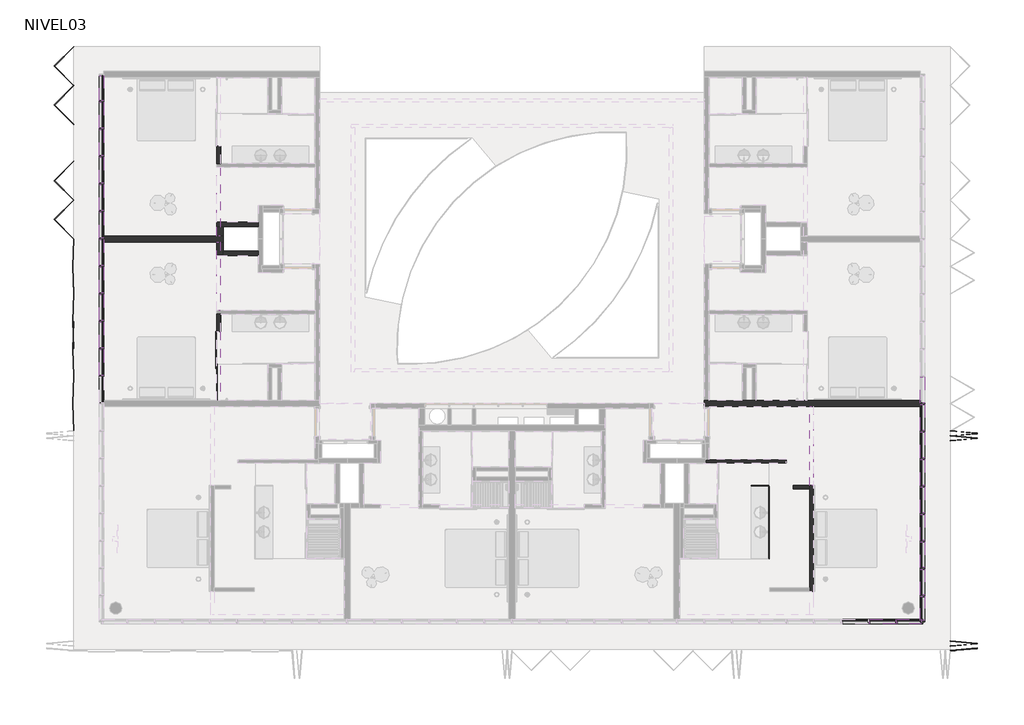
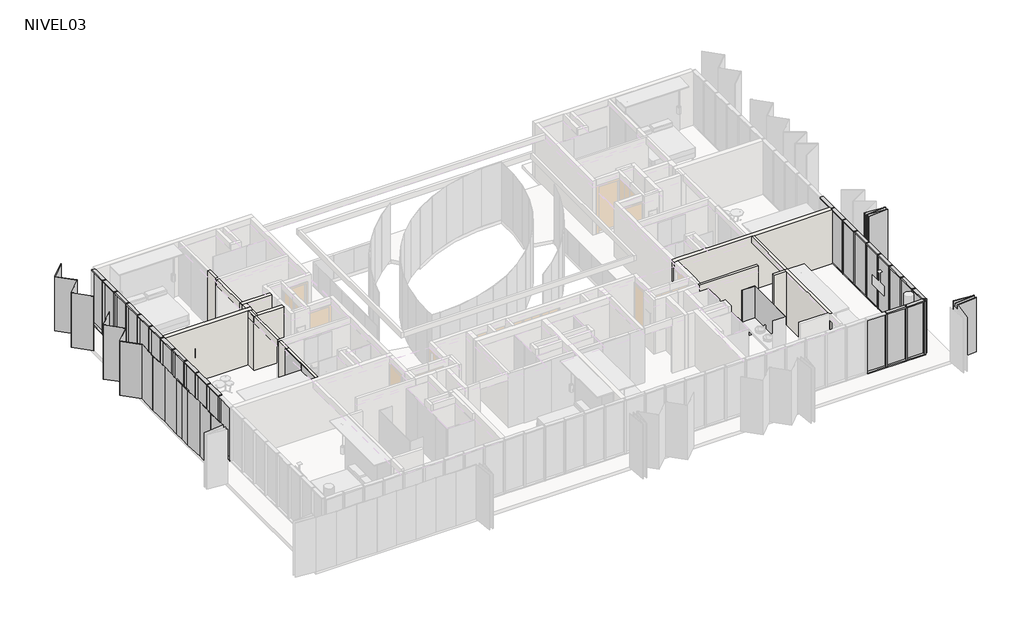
# One storey, part 4 of 8: 68 members, 30 plates, 18 walls.
"""IFC4 building model written with IfcOpenShell, lengths in millimetres."""

from ifc_helpers import new_model, si_unit, frame, origin, place, context, project, spatial, polyline, outline, extrude, faceted_brep, transform, mapped, element, save
from components import rectangular_mullion_50_x_150mm_8dc60d6a, rectangular_mullion_50_x_150mm_324a6438, rectangular_mullion_50_x_150mm_d09437e2, rectangular_mullion_50_x_150mm_5dc04e1f, rectangular_mullion_50_x_150mm_33c2bde1, rectangular_mullion_50_x_150mm_da4cfd0d, folding_hd_folding_hd_45_306ecaba, folding_hd_folding_hd_85_a0ccf00b, plate_14ea687d, panel_corredera_cr_panel_corredera_0b5135b5, system_panel_cr_shower_91adf229, system_panel_cr_shower_8ff19449, system_panel_cr_shower_d0c7b907, system_panel_glazed_8b30d0e9, system_panel_glazed_8b1c2311, system_panel_glazed_24c908d7, system_panel_glazed_6ccc6dc1

model = new_model("IFC4")

# Units and contexts
model_context = context("Model", 3, world=origin())
ifc_project = project(units=[si_unit("LENGTHUNIT", "METRE", prefix="MILLI")], contexts=[model_context])

# Site, building, storey
site = spatial("IfcSite", under=ifc_project)
building = spatial("IfcBuilding", under=site)
storey = spatial("IfcBuildingStorey", under=building, Name="NIVEL03", Elevation=5220.0)

# Members
placement = place(None, origin())
rectangular_mullion_50_x_150mm_shape = rectangular_mullion_50_x_150mm_8dc60d6a(model_context)
element("IfcMember", 1, ObjectType="Rectangular Mullion : 50 x 150mm", at=placement, inside=storey, context=model_context, shape_type="MappedRepresentation", body=[
    mapped(rectangular_mullion_50_x_150mm_shape, transform((-20633.5934748, 9658.9139237, 7770.0), x_axis=(0.0, 0.0, 1.0), y_axis=(-1.0, 0.0, 0.0), z_axis=(0.0, -1.0, 0.0))),
])
rectangular_mullion_50_x_150mm_2_shape = rectangular_mullion_50_x_150mm_324a6438(model_context)
element("IfcMember", 2, ObjectType="Rectangular Mullion : 50 x 150mm", at=placement, inside=storey, context=model_context, shape_type="MappedRepresentation", body=[
    mapped(rectangular_mullion_50_x_150mm_2_shape, transform((-20633.5934748, 8758.9139237, 7770.0), x_axis=(0.0, 0.0, 1.0), y_axis=(-1.0, 0.0, 0.0), z_axis=(0.0, -1.0, 0.0))),
])
element("IfcMember", 3, ObjectType="Rectangular Mullion : 50 x 150mm", at=placement, inside=storey, context=model_context, shape_type="MappedRepresentation", body=[
    mapped(rectangular_mullion_50_x_150mm_2_shape, transform((-20633.5934748, 7858.9139237, 7770.0), x_axis=(0.0, 0.0, 1.0), y_axis=(-1.0, 0.0, 0.0), z_axis=(0.0, -1.0, 0.0))),
])
element("IfcMember", 4, ObjectType="Rectangular Mullion : 50 x 150mm", at=placement, inside=storey, context=model_context, shape_type="MappedRepresentation", body=[
    mapped(rectangular_mullion_50_x_150mm_2_shape, transform((-20633.5934748, 6958.9139237, 7770.0), x_axis=(0.0, 0.0, 1.0), y_axis=(-1.0, 0.0, 0.0), z_axis=(0.0, -1.0, 0.0))),
])
element("IfcMember", 5, ObjectType="Rectangular Mullion : 50 x 150mm", at=placement, inside=storey, context=model_context, shape_type="MappedRepresentation", body=[
    mapped(rectangular_mullion_50_x_150mm_2_shape, transform((-20633.5934748, 6058.9139237, 7770.0), x_axis=(0.0, 0.0, 1.0), y_axis=(-1.0, 0.0, 0.0), z_axis=(0.0, -1.0, 0.0))),
])
element("IfcMember", 6, ObjectType="Rectangular Mullion : 50 x 150mm", at=placement, inside=storey, context=model_context, shape_type="MappedRepresentation", body=[
    mapped(rectangular_mullion_50_x_150mm_2_shape, transform((-20633.5934748, 5158.9139237, 7770.0), x_axis=(0.0, 0.0, 1.0), y_axis=(-1.0, 0.0, 0.0), z_axis=(0.0, -1.0, 0.0))),
])
element("IfcMember", 7, ObjectType="Rectangular Mullion : 50 x 150mm", at=placement, inside=storey, context=model_context, shape_type="MappedRepresentation", body=[
    mapped(rectangular_mullion_50_x_150mm_2_shape, transform((-20633.5934748, 4258.9139237, 7770.0), x_axis=(0.0, 0.0, 1.0), y_axis=(-1.0, 0.0, 0.0), z_axis=(0.0, -1.0, 0.0))),
])
element("IfcMember", 8, ObjectType="Rectangular Mullion : 50 x 150mm", at=placement, inside=storey, context=model_context, shape_type="MappedRepresentation", body=[
    mapped(rectangular_mullion_50_x_150mm_2_shape, transform((-20633.5934748, 3358.9139237, 7770.0), x_axis=(0.0, 0.0, 1.0), y_axis=(-1.0, 0.0, 0.0), z_axis=(0.0, -1.0, 0.0))),
])
element("IfcMember", 9, ObjectType="Rectangular Mullion : 50 x 150mm", at=placement, inside=storey, context=model_context, shape_type="MappedRepresentation", body=[
    mapped(rectangular_mullion_50_x_150mm_2_shape, transform((-20633.5934748, 2458.9139237, 7770.0), x_axis=(0.0, 0.0, 1.0), y_axis=(-1.0, 0.0, 0.0), z_axis=(0.0, -1.0, 0.0))),
])
element("IfcMember", 10, ObjectType="Rectangular Mullion : 50 x 150mm", at=placement, inside=storey, context=model_context, shape_type="MappedRepresentation", body=[
    mapped(rectangular_mullion_50_x_150mm_2_shape, transform((-20633.5934748, 1558.9139237, 7770.0), x_axis=(0.0, 0.0, 1.0), y_axis=(-1.0, 0.0, 0.0), z_axis=(0.0, -1.0, 0.0))),
])
element("IfcMember", 11, ObjectType="Rectangular Mullion : 50 x 150mm", at=placement, inside=storey, context=model_context, shape_type="MappedRepresentation", body=[
    mapped(rectangular_mullion_50_x_150mm_2_shape, transform((-20633.5934748, 658.9139237, 7770.0), x_axis=(0.0, 0.0, 1.0), y_axis=(-1.0, 0.0, 0.0), z_axis=(0.0, -1.0, 0.0))),
])
element("IfcMember", 12, ObjectType="Rectangular Mullion : 50 x 150mm", at=placement, inside=storey, context=model_context, shape_type="MappedRepresentation", body=[
    mapped(rectangular_mullion_50_x_150mm_shape, transform((-20633.5934748, 10483.9139241, 5200.0), x_axis=(0.0, 0.0, -1.0), y_axis=(-1.0, 0.0, 0.0), z_axis=(0.0, 1.0, 0.0))),
])
element("IfcMember", 13, ObjectType="Rectangular Mullion : 50 x 150mm", at=placement, inside=storey, context=model_context, shape_type="MappedRepresentation", body=[
    mapped(rectangular_mullion_50_x_150mm_2_shape, transform((-20633.5934748, 9608.9139237, 5200.0), x_axis=(0.0, 0.0, -1.0), y_axis=(-1.0, 0.0, 0.0), z_axis=(0.0, 1.0, 0.0))),
])
element("IfcMember", 14, ObjectType="Rectangular Mullion : 50 x 150mm", at=placement, inside=storey, context=model_context, shape_type="MappedRepresentation", body=[
    mapped(rectangular_mullion_50_x_150mm_2_shape, transform((-20633.5934748, 8708.9139237, 5200.0), x_axis=(0.0, 0.0, -1.0), y_axis=(-1.0, 0.0, 0.0), z_axis=(0.0, 1.0, 0.0))),
])
element("IfcMember", 15, ObjectType="Rectangular Mullion : 50 x 150mm", at=placement, inside=storey, context=model_context, shape_type="MappedRepresentation", body=[
    mapped(rectangular_mullion_50_x_150mm_2_shape, transform((-20633.5934748, 7808.9139237, 5200.0), x_axis=(0.0, 0.0, -1.0), y_axis=(-1.0, 0.0, 0.0), z_axis=(0.0, 1.0, 0.0))),
])
element("IfcMember", 16, ObjectType="Rectangular Mullion : 50 x 150mm", at=placement, inside=storey, context=model_context, shape_type="MappedRepresentation", body=[
    mapped(rectangular_mullion_50_x_150mm_2_shape, transform((-20633.5934748, 6908.9139237, 5200.0), x_axis=(0.0, 0.0, -1.0), y_axis=(-1.0, 0.0, 0.0), z_axis=(0.0, 1.0, 0.0))),
])
element("IfcMember", 17, ObjectType="Rectangular Mullion : 50 x 150mm", at=placement, inside=storey, context=model_context, shape_type="MappedRepresentation", body=[
    mapped(rectangular_mullion_50_x_150mm_2_shape, transform((-20633.5934748, 6008.9139237, 5200.0), x_axis=(0.0, 0.0, -1.0), y_axis=(-1.0, 0.0, 0.0), z_axis=(0.0, 1.0, 0.0))),
])
element("IfcMember", 18, ObjectType="Rectangular Mullion : 50 x 150mm", at=placement, inside=storey, context=model_context, shape_type="MappedRepresentation", body=[
    mapped(rectangular_mullion_50_x_150mm_2_shape, transform((-20633.5934748, 5108.9139237, 5200.0), x_axis=(0.0, 0.0, -1.0), y_axis=(-1.0, 0.0, 0.0), z_axis=(0.0, 1.0, 0.0))),
])
element("IfcMember", 19, ObjectType="Rectangular Mullion : 50 x 150mm", at=placement, inside=storey, context=model_context, shape_type="MappedRepresentation", body=[
    mapped(rectangular_mullion_50_x_150mm_2_shape, transform((-20633.5934748, 4208.9139237, 5200.0), x_axis=(0.0, 0.0, -1.0), y_axis=(-1.0, 0.0, 0.0), z_axis=(0.0, 1.0, 0.0))),
])
element("IfcMember", 20, ObjectType="Rectangular Mullion : 50 x 150mm", at=placement, inside=storey, context=model_context, shape_type="MappedRepresentation", body=[
    mapped(rectangular_mullion_50_x_150mm_2_shape, transform((-20633.5934748, 3308.9139237, 5200.0), x_axis=(0.0, 0.0, -1.0), y_axis=(-1.0, 0.0, 0.0), z_axis=(0.0, 1.0, 0.0))),
])
element("IfcMember", 21, ObjectType="Rectangular Mullion : 50 x 150mm", at=placement, inside=storey, context=model_context, shape_type="MappedRepresentation", body=[
    mapped(rectangular_mullion_50_x_150mm_2_shape, transform((-20633.5934748, 2408.9139237, 5200.0), x_axis=(0.0, 0.0, -1.0), y_axis=(-1.0, 0.0, 0.0), z_axis=(0.0, 1.0, 0.0))),
])
element("IfcMember", 22, ObjectType="Rectangular Mullion : 50 x 150mm", at=placement, inside=storey, context=model_context, shape_type="MappedRepresentation", body=[
    mapped(rectangular_mullion_50_x_150mm_2_shape, transform((-20633.5934748, 1508.9139237, 5200.0), x_axis=(0.0, 0.0, -1.0), y_axis=(-1.0, 0.0, 0.0), z_axis=(0.0, 1.0, 0.0))),
])
element("IfcMember", 23, ObjectType="Rectangular Mullion : 50 x 150mm", at=placement, inside=storey, context=model_context, shape_type="MappedRepresentation", body=[
    mapped(rectangular_mullion_50_x_150mm_2_shape, transform((-20633.5934748, 608.9139237, 5200.0), x_axis=(0.0, 0.0, -1.0), y_axis=(-1.0, 0.0, 0.0), z_axis=(0.0, 1.0, 0.0))),
])
element("IfcMember", 24, ObjectType="Rectangular Mullion : 50 x 150mm", at=placement, inside=storey, context=model_context, shape_type="MappedRepresentation", body=[
    mapped(rectangular_mullion_50_x_150mm_2_shape, transform((4541.4065252, -7416.0860759, 7770.0), x_axis=(0.0, 0.0, 1.0), y_axis=(0.0, 1.0, 0.0), z_axis=(-1.0, 0.0, 0.0))),
])
element("IfcMember", 25, ObjectType="Rectangular Mullion : 50 x 150mm", at=placement, inside=storey, context=model_context, shape_type="MappedRepresentation", body=[
    mapped(rectangular_mullion_50_x_150mm_2_shape, transform((4491.4065252, -7416.0860759, 5200.0), x_axis=(0.0, 0.0, -1.0), y_axis=(0.0, 1.0, 0.0), z_axis=(1.0, 0.0, 0.0))),
])
element("IfcMember", 26, ObjectType="Rectangular Mullion : 50 x 150mm", at=placement, inside=storey, context=model_context, shape_type="MappedRepresentation", body=[
    mapped(rectangular_mullion_50_x_150mm_2_shape, transform((5391.4065252, -7416.0860759, 5200.0), x_axis=(0.0, 0.0, -1.0), y_axis=(0.0, 1.0, 0.0), z_axis=(1.0, 0.0, 0.0))),
])
rectangular_mullion_50_x_150mm_3_shape = rectangular_mullion_50_x_150mm_d09437e2(model_context)
element("IfcMember", 27, ObjectType="Rectangular Mullion : 50 x 150mm", at=placement, inside=storey, context=model_context, shape_type="MappedRepresentation", body=[
    mapped(rectangular_mullion_50_x_150mm_3_shape, transform((6266.4065252, -7366.0860759, 7770.0), x_axis=(0.0, 0.0, 1.0), y_axis=(-1.0, 0.0, 0.0), z_axis=(0.0, -1.0, 0.0))),
])
element("IfcMember", 28, ObjectType="Rectangular Mullion : 50 x 150mm", at=placement, inside=storey, context=model_context, shape_type="MappedRepresentation", body=[
    mapped(rectangular_mullion_50_x_150mm_2_shape, transform((6266.4065252, -241.0860763, 7770.0), x_axis=(0.0, 0.0, 1.0), y_axis=(-1.0, 0.0, 0.0), z_axis=(0.0, -1.0, 0.0))),
])
element("IfcMember", 29, ObjectType="Rectangular Mullion : 50 x 150mm", at=placement, inside=storey, context=model_context, shape_type="MappedRepresentation", body=[
    mapped(rectangular_mullion_50_x_150mm_2_shape, transform((6266.4065252, -1141.0860763, 7770.0), x_axis=(0.0, 0.0, 1.0), y_axis=(-1.0, 0.0, 0.0), z_axis=(0.0, -1.0, 0.0))),
])
element("IfcMember", 30, ObjectType="Rectangular Mullion : 50 x 150mm", at=placement, inside=storey, context=model_context, shape_type="MappedRepresentation", body=[
    mapped(rectangular_mullion_50_x_150mm_2_shape, transform((6266.4065252, -2041.0860763, 7770.0), x_axis=(0.0, 0.0, 1.0), y_axis=(-1.0, 0.0, 0.0), z_axis=(0.0, -1.0, 0.0))),
])
element("IfcMember", 31, ObjectType="Rectangular Mullion : 50 x 150mm", at=placement, inside=storey, context=model_context, shape_type="MappedRepresentation", body=[
    mapped(rectangular_mullion_50_x_150mm_2_shape, transform((6266.4065252, -2941.0860763, 7770.0), x_axis=(0.0, 0.0, 1.0), y_axis=(-1.0, 0.0, 0.0), z_axis=(0.0, -1.0, 0.0))),
])
element("IfcMember", 32, ObjectType="Rectangular Mullion : 50 x 150mm", at=placement, inside=storey, context=model_context, shape_type="MappedRepresentation", body=[
    mapped(rectangular_mullion_50_x_150mm_2_shape, transform((6266.4065252, -3841.0860763, 7770.0), x_axis=(0.0, 0.0, 1.0), y_axis=(-1.0, 0.0, 0.0), z_axis=(0.0, -1.0, 0.0))),
])
element("IfcMember", 33, ObjectType="Rectangular Mullion : 50 x 150mm", at=placement, inside=storey, context=model_context, shape_type="MappedRepresentation", body=[
    mapped(rectangular_mullion_50_x_150mm_2_shape, transform((6266.4065252, -4741.0860763, 7770.0), x_axis=(0.0, 0.0, 1.0), y_axis=(-1.0, 0.0, 0.0), z_axis=(0.0, -1.0, 0.0))),
])
element("IfcMember", 34, ObjectType="Rectangular Mullion : 50 x 150mm", at=placement, inside=storey, context=model_context, shape_type="MappedRepresentation", body=[
    mapped(rectangular_mullion_50_x_150mm_2_shape, transform((6266.4065252, -5641.0860763, 7770.0), x_axis=(0.0, 0.0, 1.0), y_axis=(-1.0, 0.0, 0.0), z_axis=(0.0, -1.0, 0.0))),
])
element("IfcMember", 35, ObjectType="Rectangular Mullion : 50 x 150mm", at=placement, inside=storey, context=model_context, shape_type="MappedRepresentation", body=[
    mapped(rectangular_mullion_50_x_150mm_2_shape, transform((6266.4065252, -6541.0860763, 7770.0), x_axis=(0.0, 0.0, 1.0), y_axis=(-1.0, 0.0, 0.0), z_axis=(0.0, -1.0, 0.0))),
])
element("IfcMember", 36, ObjectType="Rectangular Mullion : 50 x 150mm", at=placement, inside=storey, context=model_context, shape_type="MappedRepresentation", body=[
    mapped(rectangular_mullion_50_x_150mm_2_shape, transform((6266.4065252, -291.0860763, 5200.0), x_axis=(0.0, 0.0, -1.0), y_axis=(-1.0, 0.0, 0.0), z_axis=(0.0, 1.0, 0.0))),
])
element("IfcMember", 37, ObjectType="Rectangular Mullion : 50 x 150mm", at=placement, inside=storey, context=model_context, shape_type="MappedRepresentation", body=[
    mapped(rectangular_mullion_50_x_150mm_2_shape, transform((6266.4065252, -1191.0860763, 5200.0), x_axis=(0.0, 0.0, -1.0), y_axis=(-1.0, 0.0, 0.0), z_axis=(0.0, 1.0, 0.0))),
])
element("IfcMember", 38, ObjectType="Rectangular Mullion : 50 x 150mm", at=placement, inside=storey, context=model_context, shape_type="MappedRepresentation", body=[
    mapped(rectangular_mullion_50_x_150mm_2_shape, transform((6266.4065252, -2091.0860763, 5200.0), x_axis=(0.0, 0.0, -1.0), y_axis=(-1.0, 0.0, 0.0), z_axis=(0.0, 1.0, 0.0))),
])
element("IfcMember", 39, ObjectType="Rectangular Mullion : 50 x 150mm", at=placement, inside=storey, context=model_context, shape_type="MappedRepresentation", body=[
    mapped(rectangular_mullion_50_x_150mm_2_shape, transform((6266.4065252, -2991.0860763, 5200.0), x_axis=(0.0, 0.0, -1.0), y_axis=(-1.0, 0.0, 0.0), z_axis=(0.0, 1.0, 0.0))),
])
element("IfcMember", 40, ObjectType="Rectangular Mullion : 50 x 150mm", at=placement, inside=storey, context=model_context, shape_type="MappedRepresentation", body=[
    mapped(rectangular_mullion_50_x_150mm_2_shape, transform((6266.4065252, -3891.0860763, 5200.0), x_axis=(0.0, 0.0, -1.0), y_axis=(-1.0, 0.0, 0.0), z_axis=(0.0, 1.0, 0.0))),
])
element("IfcMember", 41, ObjectType="Rectangular Mullion : 50 x 150mm", at=placement, inside=storey, context=model_context, shape_type="MappedRepresentation", body=[
    mapped(rectangular_mullion_50_x_150mm_2_shape, transform((6266.4065252, -4791.0860763, 5200.0), x_axis=(0.0, 0.0, -1.0), y_axis=(-1.0, 0.0, 0.0), z_axis=(0.0, 1.0, 0.0))),
])
element("IfcMember", 42, ObjectType="Rectangular Mullion : 50 x 150mm", at=placement, inside=storey, context=model_context, shape_type="MappedRepresentation", body=[
    mapped(rectangular_mullion_50_x_150mm_2_shape, transform((6266.4065252, -5691.0860763, 5200.0), x_axis=(0.0, 0.0, -1.0), y_axis=(-1.0, 0.0, 0.0), z_axis=(0.0, 1.0, 0.0))),
])
element("IfcMember", 43, ObjectType="Rectangular Mullion : 50 x 150mm", at=placement, inside=storey, context=model_context, shape_type="MappedRepresentation", body=[
    mapped(rectangular_mullion_50_x_150mm_3_shape, transform((6266.4065252, -6591.0860763, 5200.0), x_axis=(0.0, 0.0, -1.0), y_axis=(-1.0, 0.0, 0.0), z_axis=(0.0, 1.0, 0.0))),
])
rectangular_mullion_50_x_150mm_4_shape = rectangular_mullion_50_x_150mm_5dc04e1f(model_context)
element("IfcMember", 44, ObjectType="Rectangular Mullion : 50 x 150mm", at=placement, inside=storey, context=model_context, shape_type="MappedRepresentation", body=[
    mapped(rectangular_mullion_50_x_150mm_4_shape, transform((5441.4065252, -7416.0860759, 7770.0), x_axis=(0.0, 0.0, 1.0), y_axis=(0.0, 1.0, 0.0), z_axis=(-1.0, 0.0, 0.0))),
])
element("IfcMember", 45, ObjectType="Rectangular Mullion : 50 x 150mm", at=placement, inside=storey, context=model_context, shape_type="MappedRepresentation", body=[
    mapped(rectangular_mullion_50_x_150mm_4_shape, transform((6216.4065252, -7416.0860759, 5200.0), x_axis=(0.0, 0.0, -1.0), y_axis=(0.0, 1.0, 0.0), z_axis=(1.0, 0.0, 0.0))),
])
rectangular_mullion_50_x_150mm_5_shape = rectangular_mullion_50_x_150mm_33c2bde1(model_context)
element("IfcMember", 46, ObjectType="Rectangular Mullion : 50 x 150mm", at=placement, inside=storey, context=model_context, shape_type="MappedRepresentation", body=[
    mapped(rectangular_mullion_50_x_150mm_5_shape, transform((-20633.5934748, 9633.9139237, 5200.0), x_axis=(0.0, -1.0, 0.0), y_axis=(-1.0, 0.0, 0.0), z_axis=(0.0, 0.0, -1.0))),
])
element("IfcMember", 47, ObjectType="Rectangular Mullion : 50 x 150mm", at=placement, inside=storey, context=model_context, shape_type="MappedRepresentation", body=[
    mapped(rectangular_mullion_50_x_150mm_5_shape, transform((-20633.5934748, 8733.9139237, 5200.0), x_axis=(0.0, -1.0, 0.0), y_axis=(-1.0, 0.0, 0.0), z_axis=(0.0, 0.0, -1.0))),
])
element("IfcMember", 48, ObjectType="Rectangular Mullion : 50 x 150mm", at=placement, inside=storey, context=model_context, shape_type="MappedRepresentation", body=[
    mapped(rectangular_mullion_50_x_150mm_5_shape, transform((-20633.5934748, 7833.9139237, 5200.0), x_axis=(0.0, -1.0, 0.0), y_axis=(-1.0, 0.0, 0.0), z_axis=(0.0, 0.0, -1.0))),
])
element("IfcMember", 49, ObjectType="Rectangular Mullion : 50 x 150mm", at=placement, inside=storey, context=model_context, shape_type="MappedRepresentation", body=[
    mapped(rectangular_mullion_50_x_150mm_5_shape, transform((-20633.5934748, 6933.9139237, 5200.0), x_axis=(0.0, -1.0, 0.0), y_axis=(-1.0, 0.0, 0.0), z_axis=(0.0, 0.0, -1.0))),
])
element("IfcMember", 50, ObjectType="Rectangular Mullion : 50 x 150mm", at=placement, inside=storey, context=model_context, shape_type="MappedRepresentation", body=[
    mapped(rectangular_mullion_50_x_150mm_5_shape, transform((-20633.5934748, 6033.9139237, 5200.0), x_axis=(0.0, -1.0, 0.0), y_axis=(-1.0, 0.0, 0.0), z_axis=(0.0, 0.0, -1.0))),
])
element("IfcMember", 51, ObjectType="Rectangular Mullion : 50 x 150mm", at=placement, inside=storey, context=model_context, shape_type="MappedRepresentation", body=[
    mapped(rectangular_mullion_50_x_150mm_5_shape, transform((-20633.5934748, 5133.9139237, 5200.0), x_axis=(0.0, -1.0, 0.0), y_axis=(-1.0, 0.0, 0.0), z_axis=(0.0, 0.0, -1.0))),
])
element("IfcMember", 52, ObjectType="Rectangular Mullion : 50 x 150mm", at=placement, inside=storey, context=model_context, shape_type="MappedRepresentation", body=[
    mapped(rectangular_mullion_50_x_150mm_5_shape, transform((-20633.5934748, 4233.9139237, 5200.0), x_axis=(0.0, -1.0, 0.0), y_axis=(-1.0, 0.0, 0.0), z_axis=(0.0, 0.0, -1.0))),
])
element("IfcMember", 53, ObjectType="Rectangular Mullion : 50 x 150mm", at=placement, inside=storey, context=model_context, shape_type="MappedRepresentation", body=[
    mapped(rectangular_mullion_50_x_150mm_5_shape, transform((-20633.5934748, 3333.9139237, 5200.0), x_axis=(0.0, -1.0, 0.0), y_axis=(-1.0, 0.0, 0.0), z_axis=(0.0, 0.0, -1.0))),
])
element("IfcMember", 54, ObjectType="Rectangular Mullion : 50 x 150mm", at=placement, inside=storey, context=model_context, shape_type="MappedRepresentation", body=[
    mapped(rectangular_mullion_50_x_150mm_5_shape, transform((-20633.5934748, 2433.9139237, 5200.0), x_axis=(0.0, -1.0, 0.0), y_axis=(-1.0, 0.0, 0.0), z_axis=(0.0, 0.0, -1.0))),
])
element("IfcMember", 55, ObjectType="Rectangular Mullion : 50 x 150mm", at=placement, inside=storey, context=model_context, shape_type="MappedRepresentation", body=[
    mapped(rectangular_mullion_50_x_150mm_5_shape, transform((-20633.5934748, 1533.9139237, 5200.0), x_axis=(0.0, -1.0, 0.0), y_axis=(-1.0, 0.0, 0.0), z_axis=(0.0, 0.0, -1.0))),
])
element("IfcMember", 56, ObjectType="Rectangular Mullion : 50 x 150mm", at=placement, inside=storey, context=model_context, shape_type="MappedRepresentation", body=[
    mapped(rectangular_mullion_50_x_150mm_5_shape, transform((-20633.5934748, 633.9139237, 5200.0), x_axis=(0.0, -1.0, 0.0), y_axis=(-1.0, 0.0, 0.0), z_axis=(0.0, 0.0, -1.0))),
])
element("IfcMember", 57, ObjectType="Rectangular Mullion : 50 x 150mm", at=placement, inside=storey, context=model_context, shape_type="MappedRepresentation", body=[
    mapped(rectangular_mullion_50_x_150mm_5_shape, transform((4516.4065252, -7416.0860759, 5200.0), x_axis=(-1.0, 0.0, 0.0), y_axis=(0.0, 1.0, 0.0), z_axis=(0.0, 0.0, -1.0))),
])
element("IfcMember", 58, ObjectType="Rectangular Mullion : 50 x 150mm", at=placement, inside=storey, context=model_context, shape_type="MappedRepresentation", body=[
    mapped(rectangular_mullion_50_x_150mm_5_shape, transform((5416.4065252, -7416.0860759, 5200.0), x_axis=(-1.0, 0.0, 0.0), y_axis=(0.0, 1.0, 0.0), z_axis=(0.0, 0.0, -1.0))),
])
rectangular_mullion_50_x_150mm_6_shape = rectangular_mullion_50_x_150mm_da4cfd0d(model_context)
element("IfcMember", 59, ObjectType="Rectangular Mullion : 50 x 150mm", at=placement, inside=storey, context=model_context, shape_type="MappedRepresentation", body=[
    mapped(rectangular_mullion_50_x_150mm_6_shape, transform((6266.4065252, -7416.0860759, 7770.0), x_axis=(1.0, 0.0, 0.0), y_axis=(0.0, 1.0, 0.0), z_axis=(0.0, 0.0, 1.0))),
])
element("IfcMember", 60, ObjectType="Rectangular Mullion : 50 x 150mm", at=placement, inside=storey, context=model_context, shape_type="MappedRepresentation", body=[
    mapped(rectangular_mullion_50_x_150mm_5_shape, transform((6266.4065252, -266.0860763, 5200.0), x_axis=(0.0, -1.0, 0.0), y_axis=(-1.0, 0.0, 0.0), z_axis=(0.0, 0.0, -1.0))),
])
element("IfcMember", 61, ObjectType="Rectangular Mullion : 50 x 150mm", at=placement, inside=storey, context=model_context, shape_type="MappedRepresentation", body=[
    mapped(rectangular_mullion_50_x_150mm_5_shape, transform((6266.4065252, -1166.0860763, 5200.0), x_axis=(0.0, -1.0, 0.0), y_axis=(-1.0, 0.0, 0.0), z_axis=(0.0, 0.0, -1.0))),
])
element("IfcMember", 62, ObjectType="Rectangular Mullion : 50 x 150mm", at=placement, inside=storey, context=model_context, shape_type="MappedRepresentation", body=[
    mapped(rectangular_mullion_50_x_150mm_5_shape, transform((6266.4065252, -2066.0860763, 5200.0), x_axis=(0.0, -1.0, 0.0), y_axis=(-1.0, 0.0, 0.0), z_axis=(0.0, 0.0, -1.0))),
])
element("IfcMember", 63, ObjectType="Rectangular Mullion : 50 x 150mm", at=placement, inside=storey, context=model_context, shape_type="MappedRepresentation", body=[
    mapped(rectangular_mullion_50_x_150mm_5_shape, transform((6266.4065252, -2966.0860763, 5200.0), x_axis=(0.0, -1.0, 0.0), y_axis=(-1.0, 0.0, 0.0), z_axis=(0.0, 0.0, -1.0))),
])
element("IfcMember", 64, ObjectType="Rectangular Mullion : 50 x 150mm", at=placement, inside=storey, context=model_context, shape_type="MappedRepresentation", body=[
    mapped(rectangular_mullion_50_x_150mm_5_shape, transform((6266.4065252, -3866.0860763, 5200.0), x_axis=(0.0, -1.0, 0.0), y_axis=(-1.0, 0.0, 0.0), z_axis=(0.0, 0.0, -1.0))),
])
element("IfcMember", 65, ObjectType="Rectangular Mullion : 50 x 150mm", at=placement, inside=storey, context=model_context, shape_type="MappedRepresentation", body=[
    mapped(rectangular_mullion_50_x_150mm_5_shape, transform((6266.4065252, -4766.0860763, 5200.0), x_axis=(0.0, -1.0, 0.0), y_axis=(-1.0, 0.0, 0.0), z_axis=(0.0, 0.0, -1.0))),
])
element("IfcMember", 66, ObjectType="Rectangular Mullion : 50 x 150mm", at=placement, inside=storey, context=model_context, shape_type="MappedRepresentation", body=[
    mapped(rectangular_mullion_50_x_150mm_5_shape, transform((6266.4065252, -5666.0860763, 5200.0), x_axis=(0.0, -1.0, 0.0), y_axis=(-1.0, 0.0, 0.0), z_axis=(0.0, 0.0, -1.0))),
])
element("IfcMember", 67, ObjectType="Rectangular Mullion : 50 x 150mm", at=placement, inside=storey, context=model_context, shape_type="MappedRepresentation", body=[
    mapped(rectangular_mullion_50_x_150mm_5_shape, transform((6266.4065252, -6566.0860763, 5200.0), x_axis=(0.0, -1.0, 0.0), y_axis=(-1.0, 0.0, 0.0), z_axis=(0.0, 0.0, -1.0))),
])
element("IfcMember", 68, ObjectType="Rectangular Mullion : 50 x 150mm", at=placement, inside=storey, context=model_context, shape_type="MappedRepresentation", body=[
    mapped(rectangular_mullion_50_x_150mm_6_shape, transform((6266.4065252, -7416.0860759, 5200.0), x_axis=(0.0, -1.0, 0.0), y_axis=(-1.0, 0.0, 0.0), z_axis=(0.0, 0.0, -1.0))),
])

# Plates
folding_hd_folding_hd_45_shape = folding_hd_folding_hd_45_306ecaba(model_context)
element("IfcPlate", 69, ObjectType="FOLDING HD : FOLDING HD 45", at=placement, inside=storey, context=model_context, shape_type="MappedRepresentation", body=[
    mapped(folding_hd_folding_hd_45_shape, transform((-21533.5934748, 8283.9139241, 5200.0), x_axis=(0.0, -1.0, 0.0), y_axis=(1.0, 0.0, 0.0), z_axis=(0.0, 0.0, 1.0))),
])
folding_hd_folding_hd_85_shape = folding_hd_folding_hd_85_a0ccf00b(model_context)
element("IfcPlate", 70, ObjectType="FOLDING HD : FOLDING HD 85", at=placement, inside=storey, context=model_context, shape_type="MappedRepresentation", body=[
    mapped(folding_hd_folding_hd_85_shape, transform((7166.4065252, -4766.0860759, 5200.0), x_axis=(0.0, -1.0, 0.0), y_axis=(1.0, 0.0, 0.0), z_axis=(0.0, 0.0, 1.0))),
])
plate_shape = plate_14ea687d(model_context)
element("IfcPlate", 71, ObjectType="FOLDING HD : FOLDING HD-90_2\"", at=placement, inside=storey, context=model_context, shape_type="MappedRepresentation", body=[
    mapped(plate_shape, transform((-21533.5934748, 1983.9139241, 5200.0), x_axis=(0.0, -1.0, 0.0), y_axis=(1.0, 0.0, 0.0), z_axis=(0.0, 0.0, 1.0))),
])
panel_corredera_cr_panel_corredera_shape = panel_corredera_cr_panel_corredera_0b5135b5(model_context)
element("IfcPlate", 72, ObjectType="PANEL CORREDERA : CR_PANEL CORREDERA", at=placement, inside=storey, context=model_context, shape_type="MappedRepresentation", body=[
    mapped(panel_corredera_cr_panel_corredera_shape, transform((-16848.5934748, 1563.9139241, 5220.0), x_axis=(0.0, -1.0, 0.0), y_axis=(1.0, 0.0, 0.0), z_axis=(0.0, 0.0, 1.0))),
])
system_panel_cr_shower_shape = system_panel_cr_shower_91adf229(model_context)
element("IfcPlate", 73, ObjectType="System Panel : CR-SHOWER", at=placement, inside=storey, context=model_context, shape_type="MappedRepresentation", body=[
    mapped(system_panel_cr_shower_shape, transform((1226.4065252, -4164.8462541, 5220.0), x_axis=(0.0, 1.0, 0.0), y_axis=(-1.0, 0.0, 0.0), z_axis=(0.0, 0.0, 1.0))),
])
system_panel_cr_shower_2_shape = system_panel_cr_shower_8ff19449(model_context)
element("IfcPlate", 74, ObjectType="System Panel : CR-SHOWER", at=placement, inside=storey, context=model_context, shape_type="MappedRepresentation", body=[
    mapped(system_panel_cr_shower_2_shape, transform((936.4065252, -2966.0860763, 5220.0), x_axis=(1.0, 0.0, 0.0), y_axis=(0.0, 1.0, 0.0), z_axis=(0.0, 0.0, 1.0))),
])
system_panel_cr_shower_3_shape = system_panel_cr_shower_d0c7b907(model_context)
element("IfcPlate", 75, ObjectType="System Panel : CR-SHOWER", at=placement, inside=storey, context=model_context, shape_type="MappedRepresentation", body=[
    mapped(system_panel_cr_shower_3_shape, transform((-16848.5934748, 433.9139241, 5220.0), x_axis=(0.0, -1.0, 0.0), y_axis=(1.0, 0.0, 0.0), z_axis=(0.0, 0.0, 1.0))),
])
system_panel_glazed_shape = system_panel_glazed_8b30d0e9(model_context)
element("IfcPlate", 76, ObjectType="System Panel : Glazed", at=placement, inside=storey, context=model_context, shape_type="MappedRepresentation", body=[
    mapped(system_panel_glazed_shape, transform((-20633.5934748, 10071.4139239, 5250.0), x_axis=(0.0, -1.0, 0.0), y_axis=(1.0, 0.0, 0.0), z_axis=(0.0, 0.0, 1.0))),
])
system_panel_glazed_2_shape = system_panel_glazed_8b1c2311(model_context)
element("IfcPlate", 77, ObjectType="System Panel : Glazed", at=placement, inside=storey, context=model_context, shape_type="MappedRepresentation", body=[
    mapped(system_panel_glazed_2_shape, transform((-20633.5934748, 9183.9139237, 5250.0), x_axis=(0.0, -1.0, 0.0), y_axis=(1.0, 0.0, 0.0), z_axis=(0.0, 0.0, 1.0))),
])
element("IfcPlate", 78, ObjectType="System Panel : Glazed", at=placement, inside=storey, context=model_context, shape_type="MappedRepresentation", body=[
    mapped(system_panel_glazed_2_shape, transform((-20633.5934748, 8283.9139237, 5250.0), x_axis=(0.0, -1.0, 0.0), y_axis=(1.0, 0.0, 0.0), z_axis=(0.0, 0.0, 1.0))),
])
element("IfcPlate", 79, ObjectType="System Panel : Glazed", at=placement, inside=storey, context=model_context, shape_type="MappedRepresentation", body=[
    mapped(system_panel_glazed_2_shape, transform((-20633.5934748, 7383.9139237, 5250.0), x_axis=(0.0, -1.0, 0.0), y_axis=(1.0, 0.0, 0.0), z_axis=(0.0, 0.0, 1.0))),
])
element("IfcPlate", 80, ObjectType="System Panel : Glazed", at=placement, inside=storey, context=model_context, shape_type="MappedRepresentation", body=[
    mapped(system_panel_glazed_2_shape, transform((-20633.5934748, 6483.9139237, 5250.0), x_axis=(0.0, -1.0, 0.0), y_axis=(1.0, 0.0, 0.0), z_axis=(0.0, 0.0, 1.0))),
])
element("IfcPlate", 81, ObjectType="System Panel : Glazed", at=placement, inside=storey, context=model_context, shape_type="MappedRepresentation", body=[
    mapped(system_panel_glazed_2_shape, transform((-20633.5934748, 5583.9139237, 5250.0), x_axis=(0.0, -1.0, 0.0), y_axis=(1.0, 0.0, 0.0), z_axis=(0.0, 0.0, 1.0))),
])
element("IfcPlate", 82, ObjectType="System Panel : Glazed", at=placement, inside=storey, context=model_context, shape_type="MappedRepresentation", body=[
    mapped(system_panel_glazed_2_shape, transform((-20633.5934748, 4683.9139237, 5250.0), x_axis=(0.0, -1.0, 0.0), y_axis=(1.0, 0.0, 0.0), z_axis=(0.0, 0.0, 1.0))),
])
element("IfcPlate", 83, ObjectType="System Panel : Glazed", at=placement, inside=storey, context=model_context, shape_type="MappedRepresentation", body=[
    mapped(system_panel_glazed_2_shape, transform((-20633.5934748, 3783.9139237, 5250.0), x_axis=(0.0, -1.0, 0.0), y_axis=(1.0, 0.0, 0.0), z_axis=(0.0, 0.0, 1.0))),
])
element("IfcPlate", 84, ObjectType="System Panel : Glazed", at=placement, inside=storey, context=model_context, shape_type="MappedRepresentation", body=[
    mapped(system_panel_glazed_2_shape, transform((-20633.5934748, 2883.9139237, 5250.0), x_axis=(0.0, -1.0, 0.0), y_axis=(1.0, 0.0, 0.0), z_axis=(0.0, 0.0, 1.0))),
])
element("IfcPlate", 85, ObjectType="System Panel : Glazed", at=placement, inside=storey, context=model_context, shape_type="MappedRepresentation", body=[
    mapped(system_panel_glazed_2_shape, transform((-20633.5934748, 1983.9139237, 5250.0), x_axis=(0.0, -1.0, 0.0), y_axis=(1.0, 0.0, 0.0), z_axis=(0.0, 0.0, 1.0))),
])
element("IfcPlate", 86, ObjectType="System Panel : Glazed", at=placement, inside=storey, context=model_context, shape_type="MappedRepresentation", body=[
    mapped(system_panel_glazed_2_shape, transform((-20633.5934748, 1083.9139237, 5250.0), x_axis=(0.0, -1.0, 0.0), y_axis=(1.0, 0.0, 0.0), z_axis=(0.0, 0.0, 1.0))),
])
element("IfcPlate", 87, ObjectType="System Panel : Glazed", at=placement, inside=storey, context=model_context, shape_type="MappedRepresentation", body=[
    mapped(system_panel_glazed_2_shape, transform((-20633.5934748, 183.9139237, 5250.0), x_axis=(0.0, -1.0, 0.0), y_axis=(1.0, 0.0, 0.0), z_axis=(0.0, 0.0, 1.0))),
])
system_panel_glazed_3_shape = system_panel_glazed_24c908d7(model_context)
element("IfcPlate", 88, ObjectType="System Panel : Glazed", at=placement, inside=storey, context=model_context, shape_type="MappedRepresentation", body=[
    mapped(system_panel_glazed_3_shape, transform((5828.9065252, -7416.0860759, 5250.0), x_axis=(-1.0, 0.0, 0.0), y_axis=(0.0, -1.0, 0.0), z_axis=(0.0, 0.0, 1.0))),
])
element("IfcPlate", 89, ObjectType="System Panel : Glazed", at=placement, inside=storey, context=model_context, shape_type="MappedRepresentation", body=[
    mapped(system_panel_glazed_3_shape, transform((6266.4065252, -6978.5860761, 5250.0), x_axis=(0.0, -1.0, 0.0), y_axis=(1.0, 0.0, 0.0), z_axis=(0.0, 0.0, 1.0))),
])
system_panel_glazed_4_shape = system_panel_glazed_6ccc6dc1(model_context)
element("IfcPlate", 90, ObjectType="System Panel : Glazed", at=placement, inside=storey, context=model_context, shape_type="MappedRepresentation", body=[
    mapped(system_panel_glazed_4_shape, transform((4066.4065252, -7416.0860759, 5250.0), x_axis=(-1.0, 0.0, 0.0), y_axis=(0.0, -1.0, 0.0), z_axis=(0.0, 0.0, 1.0))),
])
element("IfcPlate", 91, ObjectType="System Panel : Glazed", at=placement, inside=storey, context=model_context, shape_type="MappedRepresentation", body=[
    mapped(system_panel_glazed_4_shape, transform((4966.4065252, -7416.0860759, 5250.0), x_axis=(-1.0, 0.0, 0.0), y_axis=(0.0, -1.0, 0.0), z_axis=(0.0, 0.0, 1.0))),
])
element("IfcPlate", 92, ObjectType="System Panel : Glazed", at=placement, inside=storey, context=model_context, shape_type="MappedRepresentation", body=[
    mapped(system_panel_glazed_4_shape, transform((6266.4065252, -716.0860763, 5250.0), x_axis=(0.0, -1.0, 0.0), y_axis=(1.0, 0.0, 0.0), z_axis=(0.0, 0.0, 1.0))),
])
element("IfcPlate", 93, ObjectType="System Panel : Glazed", at=placement, inside=storey, context=model_context, shape_type="MappedRepresentation", body=[
    mapped(system_panel_glazed_4_shape, transform((6266.4065252, -1616.0860763, 5250.0), x_axis=(0.0, -1.0, 0.0), y_axis=(1.0, 0.0, 0.0), z_axis=(0.0, 0.0, 1.0))),
])
element("IfcPlate", 94, ObjectType="System Panel : Glazed", at=placement, inside=storey, context=model_context, shape_type="MappedRepresentation", body=[
    mapped(system_panel_glazed_4_shape, transform((6266.4065252, -2516.0860763, 5250.0), x_axis=(0.0, -1.0, 0.0), y_axis=(1.0, 0.0, 0.0), z_axis=(0.0, 0.0, 1.0))),
])
element("IfcPlate", 95, ObjectType="System Panel : Glazed", at=placement, inside=storey, context=model_context, shape_type="MappedRepresentation", body=[
    mapped(system_panel_glazed_4_shape, transform((6266.4065252, -3416.0860763, 5250.0), x_axis=(0.0, -1.0, 0.0), y_axis=(1.0, 0.0, 0.0), z_axis=(0.0, 0.0, 1.0))),
])
element("IfcPlate", 96, ObjectType="System Panel : Glazed", at=placement, inside=storey, context=model_context, shape_type="MappedRepresentation", body=[
    mapped(system_panel_glazed_4_shape, transform((6266.4065252, -4316.0860763, 5250.0), x_axis=(0.0, -1.0, 0.0), y_axis=(1.0, 0.0, 0.0), z_axis=(0.0, 0.0, 1.0))),
])
element("IfcPlate", 97, ObjectType="System Panel : Glazed", at=placement, inside=storey, context=model_context, shape_type="MappedRepresentation", body=[
    mapped(system_panel_glazed_4_shape, transform((6266.4065252, -5216.0860763, 5250.0), x_axis=(0.0, -1.0, 0.0), y_axis=(1.0, 0.0, 0.0), z_axis=(0.0, 0.0, 1.0))),
])
element("IfcPlate", 98, ObjectType="System Panel : Glazed", at=placement, inside=storey, context=model_context, shape_type="MappedRepresentation", body=[
    mapped(system_panel_glazed_4_shape, transform((6266.4065252, -6116.0860763, 5250.0), x_axis=(0.0, -1.0, 0.0), y_axis=(1.0, 0.0, 0.0), z_axis=(0.0, 0.0, 1.0))),
])

# Walls
element("IfcWall", 99, ObjectType="SCV.TI.A.110.090.143.47.1", at=placement, inside=storey, context=model_context, shape_type="Brep", body=[
    faceted_brep([(-16738.5934748, 7593.9139241, 7770.0), (-16738.5934748, 7593.9139241, 5200.0), (-16738.5934748, 8173.9139241, 5200.0), (-16738.5934748, 8173.9139241, 7470.0), (-16738.5934748, 8173.9139241, 7770.0), (-16848.5934748, 7593.9139241, 5200.0), (-16848.5934748, 7593.9139241, 7770.0), (-16848.5934748, 8173.9139241, 7770.0), (-16848.5934748, 8173.9139241, 5200.0)], [[[0, 1, 2, 3, 4]], [[5, 6, 7, 8]], [[2, 1, 5, 8]], [[4, 3, 2, 8, 7]], [[0, 4, 7, 6]], [[0, 6, 5, 1]]]),
])
element("IfcWall", 100, ObjectType="REV-PORCELANATO_60*60", at=placement, inside=storey, context=model_context, shape_type="Brep", body=[
    faceted_brep([(-16728.5934748, 7593.9139241, 5240.0), (-16728.5934748, 7603.9139241, 5240.0), (-16728.5934748, 8173.9139241, 5240.0), (-16728.5934748, 8173.9139241, 7480.0), (-16728.5934748, 7603.9139241, 7480.0), (-16728.5934748, 7593.9139241, 7480.0), (-16738.5934748, 7593.9139241, 5240.0), (-16738.5934748, 7593.9139241, 7480.0), (-16738.5934748, 8173.9139241, 7480.0), (-16738.5934748, 8173.9139241, 5240.0)], [[[0, 1, 2, 3, 4, 5]], [[6, 7, 8, 9]], [[2, 1, 0, 6, 9]], [[3, 2, 9, 8]], [[5, 4, 3, 8, 7]], [[0, 5, 7, 6]]]),
])
element("IfcWall", 101, ObjectType="SCV.TI.A.110.090.143.47.1", at=placement, inside=storey, context=model_context, shape_type="Brep", body=[
    faceted_brep([(-833.5934748, -2216.0860759, 5200.0), (1806.4065252, -2216.0860759, 5200.0), (1806.4065252, -2216.0860759, 7770.0), (-833.5934748, -2216.0860759, 7770.0), (-833.5934748, -2106.0860759, 5200.0), (-833.5934748, -2106.0860759, 7770.0), (-723.5934748, -2106.0860759, 7770.0), (1806.4065252, -2106.0860759, 7770.0), (1806.4065252, -2106.0860759, 5200.0), (-723.5934748, -2106.0860759, 5200.0)], [[[0, 1, 2, 3]], [[4, 5, 6, 7, 8, 9]], [[1, 0, 4, 9, 8]], [[2, 1, 8, 7]], [[3, 2, 7, 6, 5]], [[0, 3, 5, 4]]]),
])
element("IfcWall", 102, ObjectType="SCV.TI.A.110.090.143.47.1", at=placement, inside=storey, context=model_context, shape_type="SweptSolid", body=[
    extrude(outline(polyline([(2576.4065252, -3061.0658633), (2035.2962079, -3061.0658633), (2035.2962079, -2951.0658633), (2576.4065252, -2951.0658633), (2576.4065252, -3061.0658633)])), frame((0.0, 0.0, 5200.0), z_axis=(0.0, 0.0, 1.0), x_axis=(1.0, 0.0, 0.0)), (0.0, 0.0, 1.0), 2570.0),
])
element("IfcWall", 103, ObjectType="SCV.TI.A.110.090.143.47.1", at=placement, inside=storey, context=model_context, shape_type="Brep", body=[
    faceted_brep([(2686.4065252, -6411.0658633, 7770.0), (2686.4065252, -6411.0658633, 7470.0), (2686.4065252, -6411.0658633, 5200.0), (2686.4065252, -2951.0658633, 5200.0), (2686.4065252, -2951.0658633, 7470.0), (2686.4065252, -2951.0658633, 7770.0), (2576.4065252, -6411.0658633, 5200.0), (2576.4065252, -6411.0658633, 7470.0), (2576.4065252, -6411.0658633, 7770.0), (2576.4065252, -6301.0658633, 7770.0), (2576.4065252, -3061.0658633, 7770.0), (2576.4065252, -2951.0658633, 7770.0), (2576.4065252, -2951.0658633, 7470.0), (2576.4065252, -2951.0658633, 5200.0), (2576.4065252, -3061.0658633, 5200.0), (2576.4065252, -6301.0658633, 5200.0)], [[[0, 1, 2, 3, 4, 5]], [[6, 7, 8, 9, 10, 11, 12, 13, 14, 15]], [[3, 2, 6, 15, 14, 13]], [[0, 5, 11, 10, 9, 8]], [[0, 8, 7, 6, 2, 1]], [[3, 13, 12, 11, 5, 4]]]),
])
element("IfcWall", 104, ObjectType="SCV.TI.A.110.090.143.47.1 2", at=placement, inside=storey, context=model_context, shape_type="SweptSolid", body=[
    extrude(outline(polyline([(-16848.5934748, 5233.9139241), (-16848.5934748, 7483.9139241), (-16738.5934748, 7483.9139241), (-16738.5934748, 5233.9139241), (-16848.5934748, 5233.9139241)])), frame((0.0, 0.0, 7470.0), z_axis=(0.0, 0.0, 1.0), x_axis=(1.0, 0.0, 0.0)), (0.0, 0.0, 1.0), 300.0),
])
element("IfcWall", 105, ObjectType="SCV.TI.A.110.090.143.47.1 2", at=placement, inside=storey, context=model_context, shape_type="SweptSolid", body=[
    extrude(outline(polyline([(2686.4065252, -366.0860759), (2686.4065252, -2951.0658633), (2576.4065252, -2951.0658633), (2576.4065252, -366.0860759), (2686.4065252, -366.0860759)])), frame((0.0, 0.0, 7470.0), z_axis=(0.0, 0.0, 1.0), x_axis=(1.0, 0.0, 0.0)), (0.0, 0.0, 1.0), 300.0),
])
element("IfcWall", 106, ObjectType="SCV.TI.A.150.120.212.47.1", at=placement, inside=storey, context=model_context, shape_type="SweptSolid", body=[
    extrude(outline(polyline([(-15493.5934748, 5533.9139241), (-16848.5934748, 5533.9139241), (-16848.5934748, 5683.9139241), (-15493.5934748, 5683.9139241), (-15493.5934748, 5533.9139241)])), frame((0.0, 0.0, 5200.0), z_axis=(0.0, 0.0, 1.0), x_axis=(1.0, 0.0, 0.0)), (0.0, 0.0, 1.0), 2570.0),
])
element("IfcWall", 107, ObjectType="SCV.TI.A.110.090.143.47.1", at=placement, inside=storey, context=model_context, shape_type="Brep", body=[
    faceted_brep([(-16848.5934748, 2673.9139241, 7770.0), (-16848.5934748, 2673.9139241, 5200.0), (-16848.5934748, 2093.9139241, 5200.0), (-16848.5934748, 2093.9139241, 7770.0), (-16738.5934748, 2673.9139241, 5200.0), (-16738.5934748, 2673.9139241, 7770.0), (-16738.5934748, 2093.9139241, 7770.0), (-16738.5934748, 2093.9139241, 7525.0), (-16738.5934748, 2093.9139241, 5200.0)], [[[0, 1, 2, 3]], [[4, 5, 6, 7, 8]], [[2, 1, 4, 8]], [[3, 2, 8, 7, 6]], [[0, 3, 6, 5]], [[0, 5, 4, 1]]]),
])
element("IfcWall", 108, ObjectType="REV-PORCELANATO_60*60", at=placement, inside=storey, context=model_context, shape_type="Brep", body=[
    faceted_brep([(-16738.5934748, 2673.9139241, 5240.0), (-16738.5934748, 2093.9139241, 5240.0), (-16738.5934748, 2093.9139241, 7480.0), (-16738.5934748, 2673.9139241, 7480.0), (-16728.5934748, 2673.9139241, 5240.0), (-16728.5934748, 2673.9139241, 7480.0), (-16728.5934748, 2663.9139241, 7480.0), (-16728.5934748, 2093.9139241, 7480.0), (-16728.5934748, 2093.9139241, 5240.0), (-16728.5934748, 2663.9139241, 5240.0)], [[[0, 1, 2, 3]], [[4, 5, 6, 7, 8, 9]], [[1, 0, 4, 9, 8]], [[2, 1, 8, 7]], [[3, 2, 7, 6, 5]], [[0, 3, 5, 4]]]),
])
element("IfcWall", 109, ObjectType="SCV.TI.A.110.090.143.47.1 2", at=placement, inside=storey, context=model_context, shape_type="SweptSolid", body=[
    extrude(outline(polyline([(-161.0860759, 7770.0), (2093.9139241, 7770.0), (2093.9139241, 7525.0), (-156.0860759, 7525.0), (-156.0860759, 7470.0), (-161.0860759, 7470.0), (-161.0860759, 7770.0)])), frame((-16848.5934748, 0.0, 0.0), z_axis=(1.0, 0.0, 0.0), x_axis=(0.0, 1.0, 0.0)), (0.0, 0.0, 1.0), 110.0),
])
element("IfcWall", 110, ObjectType="SCV.TI.A.110.090.143.47.1 2", at=placement, inside=storey, context=model_context, shape_type="SweptSolid", body=[
    extrude(outline(polyline([(-16738.5934748, 5033.9139241), (-16738.5934748, 2783.9139241), (-16848.5934748, 2783.9139241), (-16848.5934748, 5033.9139241), (-16738.5934748, 5033.9139241)])), frame((0.0, 0.0, 7470.0), z_axis=(0.0, 0.0, 1.0), x_axis=(1.0, 0.0, 0.0)), (0.0, 0.0, 1.0), 300.0),
])
element("IfcWall", 111, ObjectType="SCV.TI.A.150.120.212.47.1", at=placement, inside=storey, context=model_context, shape_type="SweptSolid", body=[
    extrude(outline(polyline([(-15493.5934748, 4583.9139241), (-16848.5934748, 4583.9139241), (-16848.5934748, 4598.9139241), (-16648.5934748, 4598.9139241), (-16648.5934748, 4733.9139241), (-15493.5934748, 4733.9139241), (-15493.5934748, 4583.9139241)])), frame((0.0, 0.0, 5200.0), z_axis=(0.0, 0.0, 1.0), x_axis=(1.0, 0.0, 0.0)), (0.0, 0.0, 1.0), 2570.0),
])
element("IfcWall", 112, ObjectType="REV-PORCELANATO_60*60", at=placement, inside=storey, context=model_context, shape_type="SweptSolid", body=[
    extrude(outline(polyline([(2426.4065252, -166.0860759), (816.4065252, -166.0860759), (816.4065252, -156.0860759), (2426.4065252, -156.0860759), (2426.4065252, -166.0860759)])), frame((0.0, 0.0, 5220.0), z_axis=(0.0, 0.0, 1.0), x_axis=(1.0, 0.0, 0.0)), (0.0, 0.0, 1.0), 2260.0),
])
element("IfcWall", 113, ObjectType="HA-200mm", at=placement, inside=storey, context=model_context, shape_type="Brep", body=[
    faceted_brep([(-16648.5934748, 5233.9139241, 5200.0), (-20558.5934748, 5233.9139241, 5200.0), (-20558.5934748, 5233.9139241, 7770.0), (-16848.5934748, 5233.9139241, 7770.0), (-16738.5934748, 5233.9139241, 7770.0), (-16648.5934748, 5233.9139241, 7770.0), (-16648.5934748, 5033.9139241, 5200.0), (-16648.5934748, 5033.9139241, 7770.0), (-16738.5934748, 5033.9139241, 7770.0), (-16848.5934748, 5033.9139241, 7770.0), (-20558.5934748, 5033.9139241, 7770.0), (-20558.5934748, 5033.9139241, 5200.0)], [[[0, 1, 2, 3, 4, 5]], [[6, 7, 8, 9, 10, 11]], [[1, 0, 6, 11]], [[2, 1, 11, 10]], [[5, 4, 3, 2, 10, 9, 8, 7]], [[0, 5, 7, 6]]]),
])
element("IfcWall", 114, ObjectType="HA-200mm", at=placement, inside=storey, context=model_context, shape_type="Brep", body=[
    faceted_brep([(-883.5934748, -366.0860759, 5200.0), (-873.5934748, -366.0860759, 5200.0), (-723.5934748, -366.0860759, 5200.0), (6191.4065252, -366.0860759, 5200.0), (6191.4065252, -366.0860759, 7770.0), (2686.4065252, -366.0860759, 7770.0), (2576.4065252, -366.0860759, 7770.0), (-723.5934748, -366.0860759, 7770.0), (-873.5934748, -366.0860759, 7770.0), (-883.5934748, -366.0860759, 7770.0), (-883.5934748, -166.0860759, 5200.0), (-883.5934748, -166.0860759, 7770.0), (-733.5934748, -166.0860759, 7770.0), (366.4065252, -166.0860759, 7770.0), (486.4065252, -166.0860759, 7770.0), (686.4065252, -166.0860759, 7770.0), (806.4065252, -166.0860759, 7770.0), (6191.4065252, -166.0860759, 7770.0), (6191.4065252, -166.0860759, 5200.0), (806.4065252, -166.0860759, 5200.0), (686.4065252, -166.0860759, 5200.0), (486.4065252, -166.0860759, 5200.0), (366.4065252, -166.0860759, 5200.0), (-733.5934748, -166.0860759, 5200.0)], [[[0, 1, 2, 3, 4, 5, 6, 7, 8, 9]], [[10, 11, 12, 13, 14, 15, 16, 17, 18, 19, 20, 21, 22, 23]], [[3, 2, 1, 0, 10, 23, 22, 21, 20, 19, 18]], [[4, 3, 18, 17]], [[9, 8, 7, 6, 5, 4, 17, 16, 15, 14, 13, 12, 11]], [[0, 9, 11, 10]]]),
])
element("IfcWall", 115, ObjectType="HA-200mm", at=placement, inside=storey, context=model_context, shape_type="SweptSolid", body=[
    extrude(outline(polyline([(-16648.5934748, 5668.9139241), (-16648.5934748, 5233.9139241), (-16848.5934748, 5233.9139241), (-16848.5934748, 5668.9139241), (-16648.5934748, 5668.9139241)])), frame((0.0, 0.0, 5200.0), z_axis=(0.0, 0.0, 1.0), x_axis=(1.0, 0.0, 0.0)), (0.0, 0.0, 1.0), 2570.0),
])
element("IfcWall", 116, ObjectType="HA-200mm", at=placement, inside=storey, context=model_context, shape_type="Brep", body=[
    faceted_brep([(-16848.5934748, 5033.9139241, 5200.0), (-16848.5934748, 4598.9139241, 5200.0), (-16848.5934748, 4598.9139241, 7770.0), (-16848.5934748, 5033.9139241, 7770.0), (-16648.5934748, 5033.9139241, 5200.0), (-16648.5934748, 5033.9139241, 7770.0), (-16648.5934748, 4733.9139241, 7770.0), (-16648.5934748, 4598.9139241, 7770.0), (-16648.5934748, 4598.9139241, 5200.0), (-16648.5934748, 4733.9139241, 5200.0)], [[[0, 1, 2, 3]], [[4, 5, 6, 7, 8, 9]], [[1, 0, 4, 9, 8]], [[2, 1, 8, 7]], [[3, 2, 7, 6, 5]], [[0, 3, 5, 4]]]),
])

save(model, "model.ifc")
